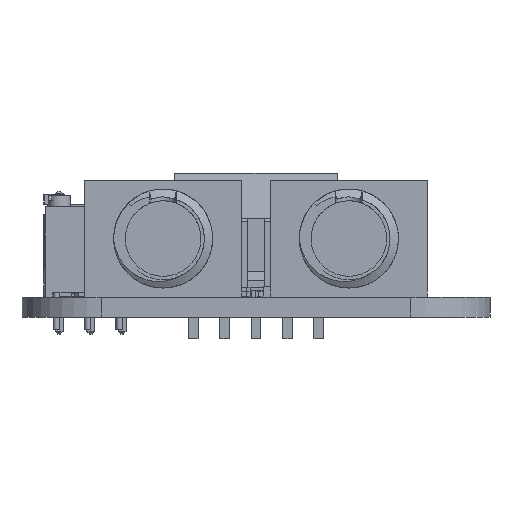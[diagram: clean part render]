
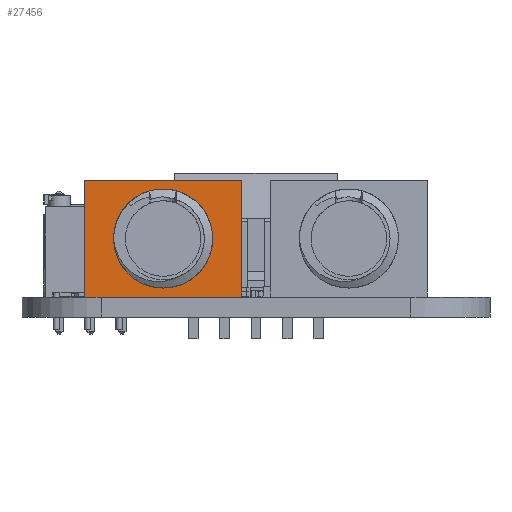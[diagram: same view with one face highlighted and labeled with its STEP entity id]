
A CAD part, left-side view. The second image highlights one B-rep face of the part: STEP entity #27456.
In plain terms, the highlighted planar face has unit normal (-1, 0, 0) as drawn and (0, 1, 0) by its records, which use the part's own axes.
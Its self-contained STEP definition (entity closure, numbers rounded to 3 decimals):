
#27225 = VERTEX_POINT('',#27226);
#27226 = CARTESIAN_POINT('',(4.725,3.201,4.027));
#27232 = EDGE_CURVE('',#27233,#27225,#27235,.T.);
#27233 = VERTEX_POINT('',#27234);
#27234 = CARTESIAN_POINT('',(4.725,3.201,-2.173));
#27235 = CIRCLE('',#27236,3.1);
#27236 = AXIS2_PLACEMENT_3D('',#27237,#27238,#27239);
#27237 = CARTESIAN_POINT('',(4.725,3.201,0.927));
#27238 = DIRECTION('',(0.,1.,0.));
#27239 = DIRECTION('',(0.,0.,1.));
#27349 = VERTEX_POINT('',#27350);
#27350 = CARTESIAN_POINT('',(0.,3.201,7.277));
#27367 = VERTEX_POINT('',#27368);
#27368 = CARTESIAN_POINT('',(9.45,3.201,7.277));
#27374 = EDGE_CURVE('',#27367,#27349,#27375,.T.);
#27375 = LINE('',#27376,#27377);
#27376 = CARTESIAN_POINT('',(9.45,3.201,7.277));
#27377 = VECTOR('',#27378,1.);
#27378 = DIRECTION('',(-1.,0.,0.));
#27430 = VERTEX_POINT('',#27431);
#27431 = CARTESIAN_POINT('',(0.,3.201,-5.423));
#27437 = EDGE_CURVE('',#27438,#27430,#27440,.T.);
#27438 = VERTEX_POINT('',#27439);
#27439 = CARTESIAN_POINT('',(9.45,3.201,-5.423));
#27440 = LINE('',#27441,#27442);
#27441 = CARTESIAN_POINT('',(9.45,3.201,-5.423));
#27442 = VECTOR('',#27443,1.);
#27443 = DIRECTION('',(-1.,0.,0.));
#27456 = ADVANCED_FACE('',(#27457,#27467),#27483,.F.);
#27457 = FACE_BOUND('',#27458,.T.);
#27458 = EDGE_LOOP('',(#27459,#27466));
#27459 = ORIENTED_EDGE('',*,*,#27460,.F.);
#27460 = EDGE_CURVE('',#27225,#27233,#27461,.T.);
#27461 = CIRCLE('',#27462,3.1);
#27462 = AXIS2_PLACEMENT_3D('',#27463,#27464,#27465);
#27463 = CARTESIAN_POINT('',(4.725,3.201,0.927));
#27464 = DIRECTION('',(0.,1.,0.));
#27465 = DIRECTION('',(0.,0.,1.));
#27466 = ORIENTED_EDGE('',*,*,#27232,.F.);
#27467 = FACE_BOUND('',#27468,.T.);
#27468 = EDGE_LOOP('',(#27469,#27475,#27476,#27482));
#27469 = ORIENTED_EDGE('',*,*,#27470,.T.);
#27470 = EDGE_CURVE('',#27430,#27349,#27471,.T.);
#27471 = LINE('',#27472,#27473);
#27472 = CARTESIAN_POINT('',(0.,3.201,7.277));
#27473 = VECTOR('',#27474,1.);
#27474 = DIRECTION('',(0.,0.,1.));
#27475 = ORIENTED_EDGE('',*,*,#27374,.F.);
#27476 = ORIENTED_EDGE('',*,*,#27477,.F.);
#27477 = EDGE_CURVE('',#27438,#27367,#27478,.T.);
#27478 = LINE('',#27479,#27480);
#27479 = CARTESIAN_POINT('',(9.45,3.201,7.277));
#27480 = VECTOR('',#27481,1.);
#27481 = DIRECTION('',(0.,0.,1.));
#27482 = ORIENTED_EDGE('',*,*,#27437,.T.);
#27483 = PLANE('',#27484);
#27484 = AXIS2_PLACEMENT_3D('',#27485,#27486,#27487);
#27485 = CARTESIAN_POINT('',(9.45,3.201,7.277));
#27486 = DIRECTION('',(0.,-1.,0.));
#27487 = DIRECTION('',(0.,0.,-1.));
